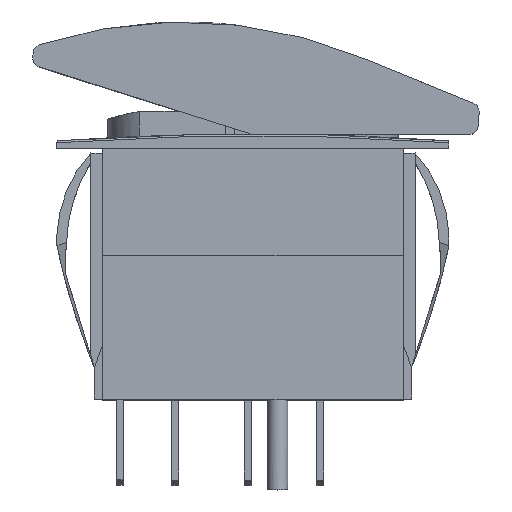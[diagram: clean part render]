
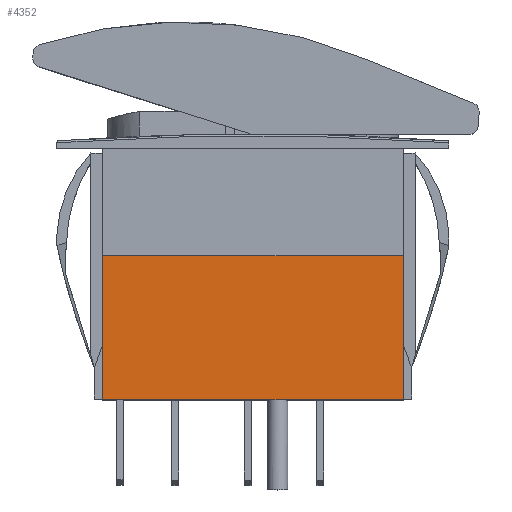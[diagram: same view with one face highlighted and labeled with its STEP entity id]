
A CAD part, top view. The second image highlights one B-rep face of the part: STEP entity #4352.
In plain terms, the highlighted planar face has unit normal (0, 0, 1).
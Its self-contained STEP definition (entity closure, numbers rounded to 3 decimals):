
#202=FACE_OUTER_BOUND('',#453,.T.);
#453=EDGE_LOOP('',(#2890,#2891,#2892,#2893));
#734=LINE('',#6296,#1278);
#748=LINE('',#6324,#1292);
#753=LINE('',#6334,#1297);
#754=LINE('',#6335,#1298);
#1278=VECTOR('',#5044,10.);
#1292=VECTOR('',#5060,10.);
#1297=VECTOR('',#5069,10.);
#1298=VECTOR('',#5070,10.);
#1819=VERTEX_POINT('',#6293);
#1820=VERTEX_POINT('',#6295);
#1833=VERTEX_POINT('',#6323);
#1836=VERTEX_POINT('',#6333);
#2221=EDGE_CURVE('',#1819,#1820,#734,.T.);
#2235=EDGE_CURVE('',#1819,#1833,#748,.T.);
#2240=EDGE_CURVE('',#1833,#1836,#753,.T.);
#2241=EDGE_CURVE('',#1820,#1836,#754,.T.);
#2890=ORIENTED_EDGE('',*,*,#2235,.T.);
#2891=ORIENTED_EDGE('',*,*,#2240,.T.);
#2892=ORIENTED_EDGE('',*,*,#2241,.F.);
#2893=ORIENTED_EDGE('',*,*,#2221,.F.);
#4140=PLANE('',#4676);
#4352=ADVANCED_FACE('',(#202),#4140,.T.);
#4676=AXIS2_PLACEMENT_3D('',#6332,#5067,#5068);
#5044=DIRECTION('',(0.,-1.,0.));
#5060=DIRECTION('',(-1.,0.,0.));
#5067=DIRECTION('center_axis',(0.,0.,1.));
#5068=DIRECTION('ref_axis',(1.,0.,0.));
#5069=DIRECTION('',(0.,-1.,0.));
#5070=DIRECTION('',(-1.,0.,0.));
#6293=CARTESIAN_POINT('',(33.15,-11.8,20.8));
#6295=CARTESIAN_POINT('',(33.15,-27.7,20.8));
#6296=CARTESIAN_POINT('',(33.15,-27.2,20.8));
#6323=CARTESIAN_POINT('',(0.,-11.8,20.8));
#6324=CARTESIAN_POINT('',(24.863,-11.8,20.8));
#6332=CARTESIAN_POINT('Origin',(16.575,-13.6,20.8));
#6333=CARTESIAN_POINT('',(0.,-27.7,20.8));
#6334=CARTESIAN_POINT('',(0.,0.,20.8));
#6335=CARTESIAN_POINT('',(33.15,-27.7,20.8));
